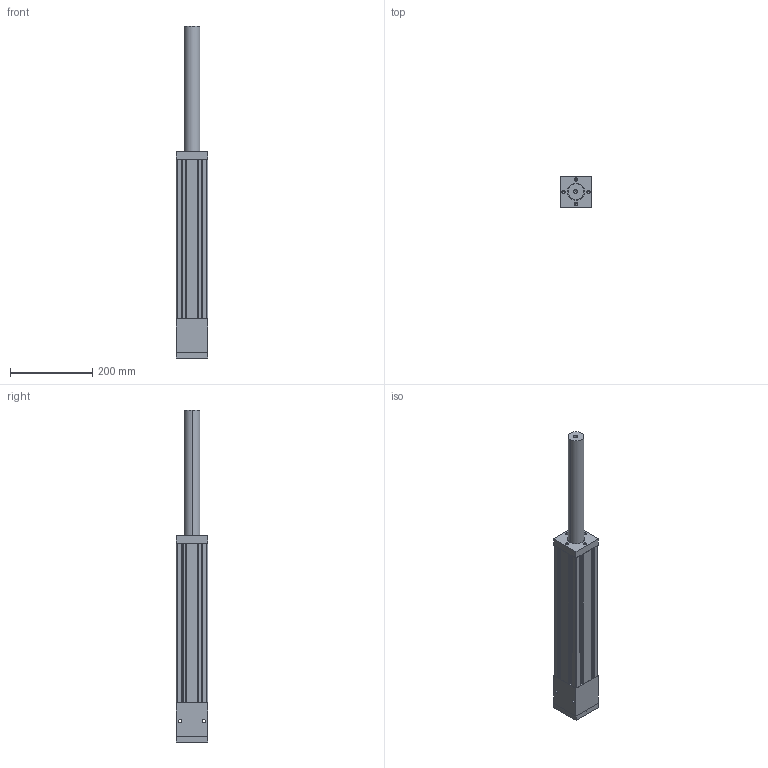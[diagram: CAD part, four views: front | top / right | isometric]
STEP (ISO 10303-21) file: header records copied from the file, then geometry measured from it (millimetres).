
FILE_DESCRIPTION (( 'STEP AP203' ), '1' );
FILE_NAME ('SS12.STEP', '2010-06-02T19:00:10', ( 'render' ), ( '' ), 'SwSTEP 2.0', 'SolidWorks 2009', '' );
FILE_SCHEMA (( 'CONFIG_CONTROL_DESIGN' ));
Length unit declared in the file: millimetre
Products named in the file (5): SS12; SS-12-front block; SS12-body; SS-back block; SS-76 mounting plate for 60mm servo 
Assembly tree (4 placements, depth 2):
  SS12
    SS-12-front block
    SS-76 mounting plate for 60mm servo 
    SS-back block
    SS12-body
Bounding box: 76.2 x 76.2 x 806.45 mm (x, y, z)
Volume: 1818099.6 mm3; surface area: 442228 mm2
Topology: 4 solids, 4 shells, 309 faces, 834 edges, 541 vertices
Faces by surface type: cylinder 176, plane 115, cone 18
Entity records: 10387 total; most frequent: CARTESIAN_POINT 1799, DIRECTION 1792, ORIENTED_EDGE 1632, EDGE_CURVE 816, AXIS2_PLACEMENT_3D 664, VERTEX_POINT 541, LINE 464, VECTOR 464
